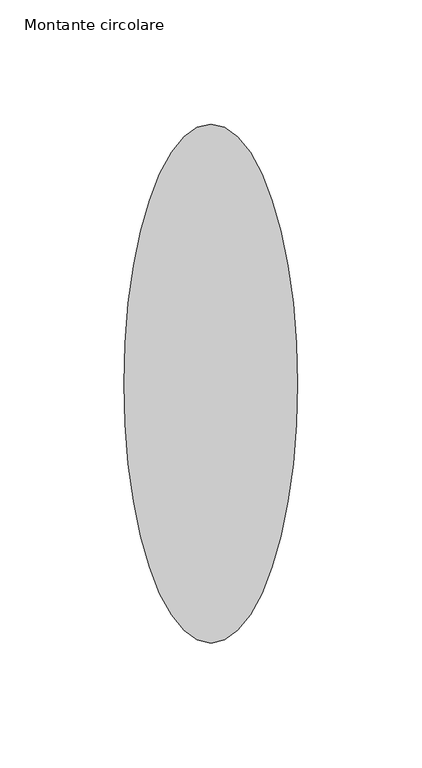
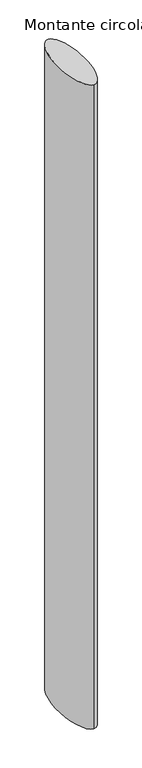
"""IFC4 building model written with IfcOpenShell, lengths in millimetres: member geometry, Montante circolare : Mullion FARAONE_F01/A."""

from ifc_helpers import new_model, si_unit, point, frame, origin, place, context, project, spatial, ellipse_curve, trimmed, source, transform, mapped, element, save
from ifc_brep_helpers import plane_surface, extruded_surface, advanced_brep


def montante_circolare_cc02080f(model_context):
    return source(origin(), model_context, "Body", "AdvancedBrep", [
        advanced_brep(
        [(0.0, 264.0, 0.0), (0.0, 55.0, 0.0), (0.0, 264.0, -1800.0), (0.0, 55.0, -1800.0)],
        [
            (0, 1, ellipse_curve(frame((0.0, 159.5, 0.0), z_axis=(0.0, 0.0, 1.0), x_axis=(0.0, -1.0, 0.0)), 104.5, 35.0)),
            (1, 0, ellipse_curve(frame((0.0, 159.5, 0.0), z_axis=(0.0, 0.0, 1.0), x_axis=(0.0, -1.0, 0.0)), 104.5, 35.0)),
            (2, 3, ellipse_curve(frame((0.0, 159.5, -1800.0), z_axis=(0.0, 0.0, -1.0), x_axis=(0.0, -1.0, 0.0)), 104.5, 35.0)),
            (3, 2, ellipse_curve(frame((0.0, 159.5, -1800.0), z_axis=(0.0, 0.0, -1.0), x_axis=(0.0, -1.0, 0.0)), 104.5, 35.0)),
            (0, 2),
            (3, 1),
        ],
        [
            plane_surface(frame((0.0, -264.0, 0.0), z_axis=(0.0, 0.0, 1.0), x_axis=(-1.0, 0.0, 0.0))),
            plane_surface(frame((0.0, -264.0, -1800.0), z_axis=(0.0, 0.0, -1.0), x_axis=(-1.0, 0.0, 0.0))),
            extruded_surface(trimmed(ellipse_curve(frame((0.0, 159.5, -1800.0), z_axis=(0.0, 0.0, 1.0), x_axis=(0.0, -1.0, 0.0)), 104.5, 35.0), [point((0.0, 264.0, -1800.0))], [point((0.0, 55.0, -1800.0))], True, "CARTESIAN"), (0.0, 0.0, 1800.0), 1800.0),
            extruded_surface(trimmed(ellipse_curve(frame((0.0, 159.5, -1800.0), z_axis=(0.0, 0.0, 1.0), x_axis=(0.0, -1.0, 0.0)), 104.5, 35.0), [point((0.0, 55.0, -1800.0))], [point((0.0, 264.0, -1800.0))], True, "CARTESIAN"), (0.0, 0.0, 1800.0), 1800.0),
        ],
        [
            (0, [[1, 2]]),
            (1, [[3, 4]]),
            (2, [[-1, 5, -4, 6]]),
            (3, [[-2, -6, -3, -5]]),
        ],
    ),
    ])


if __name__ == "__main__":
    model = new_model("IFC4")
    model_context = context("Model", 3, world=origin())
    ifc_project = project(units=[si_unit("LENGTHUNIT", "METRE", prefix="MILLI")], contexts=[model_context])
    site = spatial("IfcSite", under=ifc_project)
    building = spatial("IfcBuilding", under=site)
    placement = place(None, origin())
    montante_circolare_shape = montante_circolare_cc02080f(model_context)
    element("IfcMember", 1, ObjectType="Montante circolare : Mullion FARAONE_F01/A", at=placement, inside=building, context=model_context, shape_type="MappedRepresentation", body=[
        mapped(montante_circolare_shape, transform((0.0, 0.0, 0.0), x_axis=(1.0, 0.0, 0.0), y_axis=(0.0, 1.0, 0.0), z_axis=(0.0, 0.0, 1.0))),
    ])
    save(model, "model.ifc")
